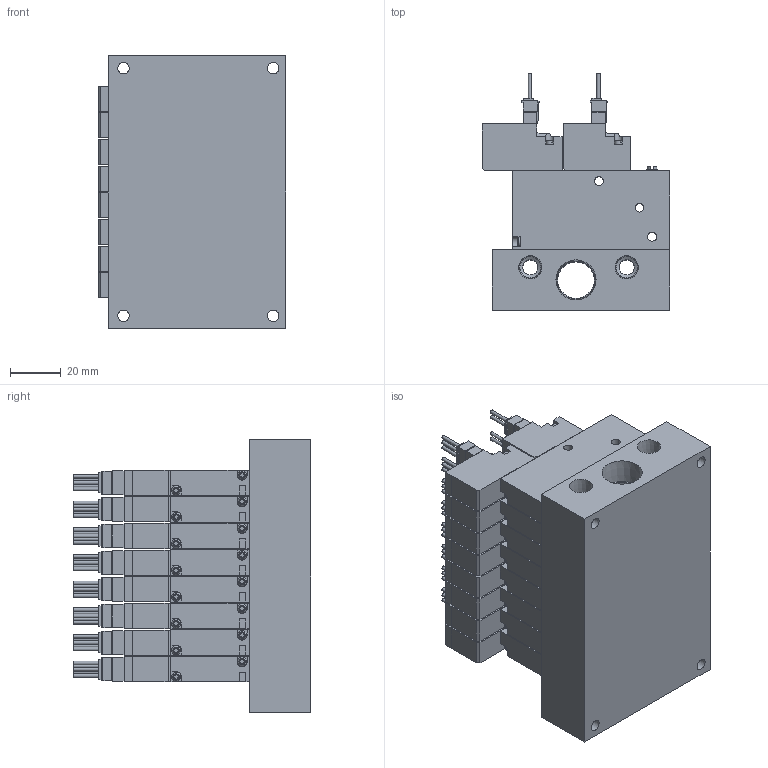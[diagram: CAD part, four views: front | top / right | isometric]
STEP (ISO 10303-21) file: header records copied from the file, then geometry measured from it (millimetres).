
FILE_DESCRIPTION(('STEP AP203'),'1');
FILE_NAME('BMPV42MZZ5W808.stp','2025-04-30T07:12:44',(' '),(' '),'Spatial InterOp 3D',' ',' ');
FILE_SCHEMA(('CONFIG_CONTROL_DESIGN'));
Length unit declared in the file: millimetre
Products named in the file (18): BMPV42MZZ5W808; VACUUM VALVE FUNCTION MPV42-W; UNIT-MPV42; VACUUM VALVE FUNCTION MPV42-A; MC4-M8
Assembly tree (25 placements, depth 2):
  BMPV42MZZ5W808
    VACUUM VALVE FUNCTION MPV42-W
    VACUUM VALVE FUNCTION MPV42-W
    VACUUM VALVE FUNCTION MPV42-W
    VACUUM VALVE FUNCTION MPV42-W
    VACUUM VALVE FUNCTION MPV42-W
    VACUUM VALVE FUNCTION MPV42-W
    UNIT-MPV42
    UNIT-MPV42  x5
    VACUUM VALVE FUNCTION MPV42-A
    VACUUM VALVE FUNCTION MPV42-A  x5
    VACUUM VALVE FUNCTION MPV42-W
    VACUUM VALVE FUNCTION MPV42-A
    UNIT-MPV42
    MC4-M8
    VACUUM VALVE FUNCTION MPV42-W
    VACUUM VALVE FUNCTION MPV42-A
    UNIT-MPV42
Bounding box: 74 x 93.45 x 107.5 mm (x, y, z)
Volume: 387235.9 mm3; surface area: 122634.8 mm2
Topology: 25 solids, 25 shells, 2145 faces, 5771 edges, 3844 vertices
Faces by surface type: plane 1734, cylinder 339, cone 40, torus 16, sphere 16
Full cylindrical faces by diameter (mm): 1.4 x40, 1.8 x8, 2.2 x16, 3 x32, 3.5 x56, 4.134 x8, 4.5 x4, 5 x8, 6 x2, 8.2 x4, 14.5 x1
Entity records: 46542 total; most frequent: CARTESIAN_POINT 8399, ORIENTED_EDGE 7612, DIRECTION 7446, EDGE_CURVE 3806, LINE 3148, VECTOR 3148, VERTEX_POINT 2622, AXIS2_PLACEMENT_3D 2149
